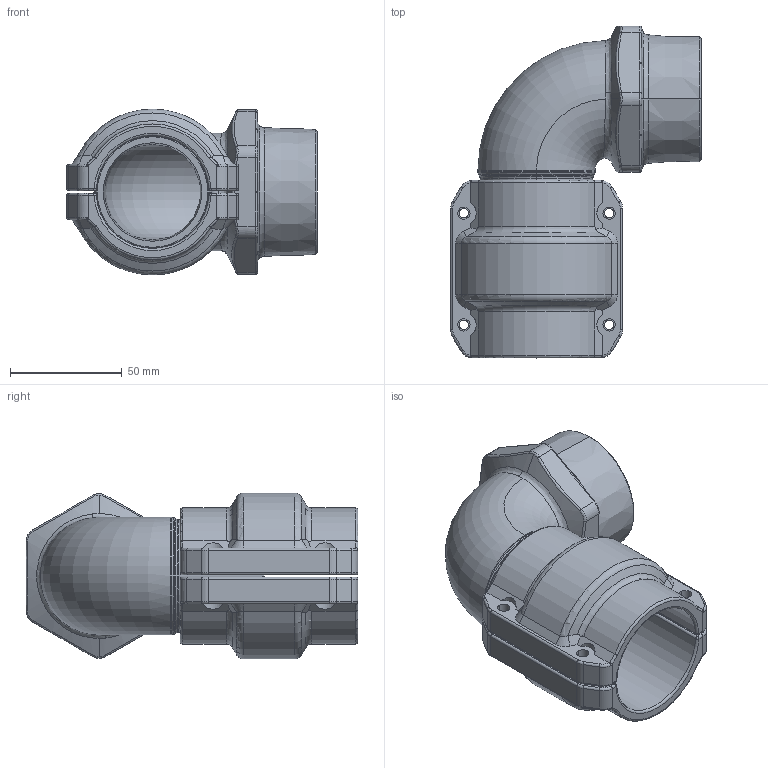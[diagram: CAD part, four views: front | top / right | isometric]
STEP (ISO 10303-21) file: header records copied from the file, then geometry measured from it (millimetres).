
FILE_DESCRIPTION((''),'2;1');
FILE_NAME('AU15551599_ASM','2017-05-12T',('Administrator'),(''),'PRO/ENGINEER BY PARAMETRIC TECHNOLOGY CORPORATION, 2009360','PRO/ENGINEER BY PARAMETRIC TECHNOLOGY CORPORATION, 2009360','');
FILE_SCHEMA(('AUTOMOTIVE_DESIGN_CC2 { 1 2 10303 214 -1 1 5 2 }'));
Length unit declared in the file: millimetre
Products named in the file (5): AU15551500; 201550020001; 201550020000; 2015500200_ASM; AU15551599_ASM
Assembly tree (4 placements, depth 3):
  AU15551599_ASM
    AU15551500
    2015500200_ASM
      201550020001
      201550020000
Bounding box: 112.34 x 148.53 x 74.3 mm (x, y, z)
Volume: 248764.8 mm3; surface area: 82445.7 mm2
Topology: 3 solids, 3 shells, 306 faces, 757 edges, 457 vertices
Faces by surface type: cylinder 114, torus 74, plane 50, bspline 44, cone 16, sphere 8
Entity records: 13687 total; most frequent: CARTESIAN_POINT 4193, ORIENTED_EDGE 1514, DIRECTION 1504, PRESENTATION_STYLE_ASSIGNMENT 760, STYLED_ITEM 760, CURVE_STYLE 757, EDGE_CURVE 757, AXIS2_PLACEMENT_3D 631
